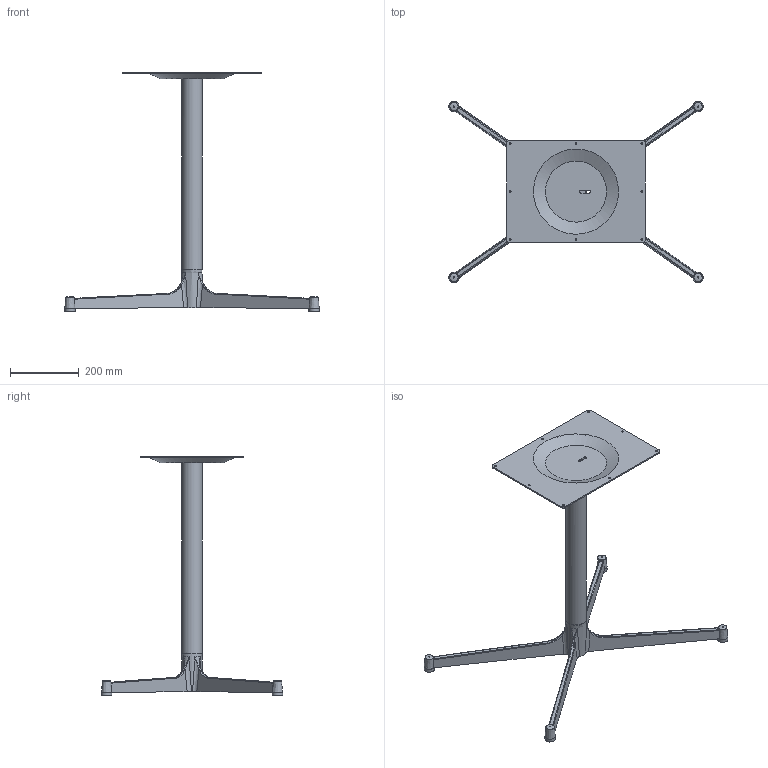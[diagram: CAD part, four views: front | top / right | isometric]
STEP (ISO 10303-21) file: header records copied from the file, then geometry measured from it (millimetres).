
FILE_DESCRIPTION(/* description */ (''),/* implementation_level */ '2;1');
FILE_NAME(/* name */ 'kinoshita_coccole_cl22a',/* time_stamp */ '2026-08-05T17:09:11+09:00',/* author */ (''),/* organization */ (''),/* preprocessor_version */ 'ST-DEVELOPER v16.5',/* originating_system */ '',/* authorisation */ '');
FILE_SCHEMA (('AUTOMOTIVE_DESIGN'));
Length unit declared in the file: millimetre
Products named in the file (1): Document
Bounding box: 742.65 x 529.01 x 700 mm (x, y, z)
Surface area: 664763.4 mm2 (no closed solid volume)
Topology: 0 solids, 2 shells, 130 faces, 341 edges, 185 vertices
Faces by surface type: bspline 86, plane 44
Entity records: 6829 total; most frequent: CARTESIAN_POINT 4810, ORIENTED_EDGE 621, EDGE_CURVE 332, B_SPLINE_CURVE_WITH_KNOTS 225, VERTEX_POINT 185, EDGE_LOOP 150, ADVANCED_FACE 130, FACE_OUTER_BOUND 130
